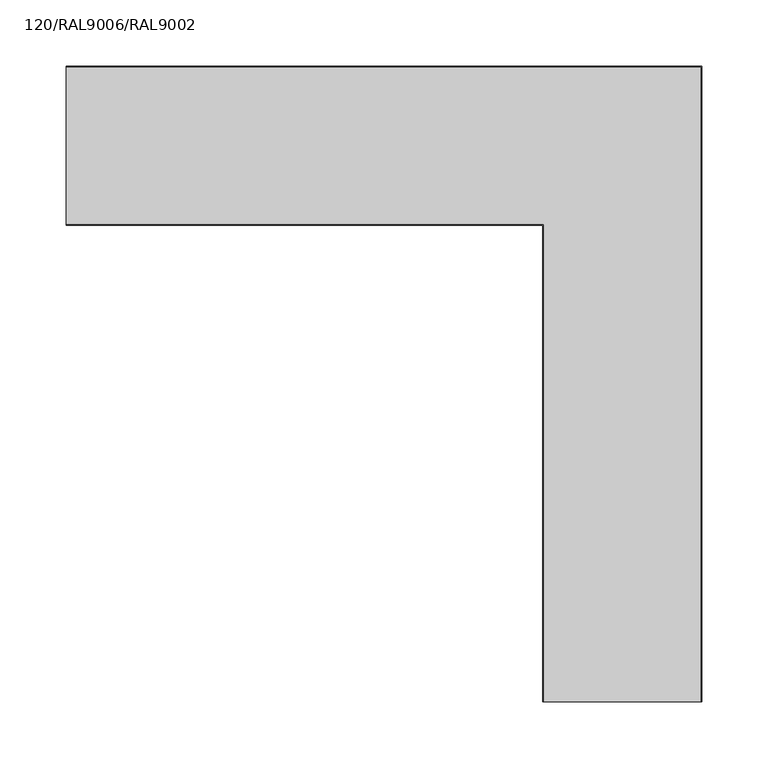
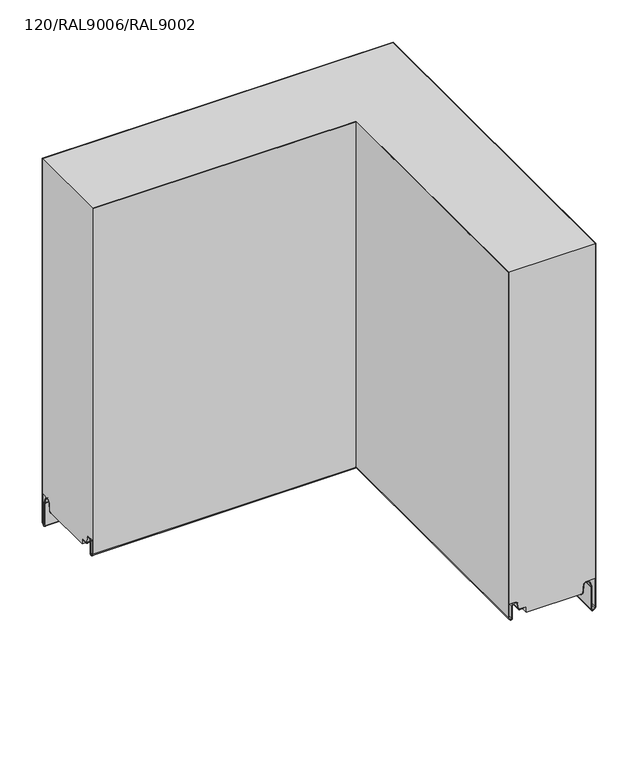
"""IFC4 building model written with IfcOpenShell, lengths in millimetres: plate geometry, TR_C_H_FHL_Corner_Tr_A_cut_GROOVE : 120/RAL9006/RAL9002."""

from ifc_helpers import new_model, si_unit, frame, origin, place, context, project, spatial, polyline, circle_curve, ellipse_curve, source, transform, mapped, element, save
from ifc_brep_helpers import plane_surface, cylinder_surface, revolved_surface, advanced_brep


def plate_120_ral9006_ral9002_16159907(model_context):
    return source(origin(), model_context, "Body", "AdvancedBrep", [
        advanced_brep(
        [(219.2, -480.0, 0.0), (220.2091721, -480.0, 0.1), (221.9027031, -480.0, 1.6518352), (222.7666165, -480.0, 11.5264116), (227.6479706, -480.0, 15.9993484), (239.2, -480.0, 15.9993484), (239.2, -480.0, 500.0), (120.8, -480.0, 500.0), (120.8, -480.0, 19.9), (129.45, -480.0, 19.9), (133.635433, -480.0, 16.3880048), (134.9718183, -480.0, 8.808987), (136.0551068, -480.0, 7.9), (145.14, -480.0, 7.9), (145.14, -480.0, 0.0), (-240.0, -20.8, 0.0), (-240.0, -94.86, 0.0), (-240.0, -94.86, 7.9), (-240.0, -103.9448932, 7.9), (-240.0, -105.0281817, 8.808987), (-240.0, -106.364567, 16.3880048), (-240.0, -110.55, 19.9), (-240.0, -119.2, 19.9), (-240.0, -119.2, 500.0), (-240.0, -0.8, 500.0), (-240.0, -0.8, 15.9993484), (-240.0, -12.3520294, 15.9993484), (-240.0, -17.2333835, 11.5264116), (-240.0, -18.0972969, 1.6518352), (-240.0, -19.7908279, 0.1), (145.14, -94.86, 0.0), (219.2, -20.8, 0.0), (120.8, -119.2, 19.9), (129.45, -110.55, 19.9), (133.635433, -106.364567, 16.3880048), (134.9718183, -105.0281817, 8.808987), (136.0551068, -103.9448932, 7.9), (145.14, -94.86, 7.9), (220.2091721, -19.7908279, 0.1), (221.9027031, -18.0972969, 1.6518352), (222.7666165, -17.2333835, 11.5264116), (227.6479706, -12.3520294, 15.9993484), (239.2, -0.8, 15.9993484), (239.2, -0.8, 500.0), (120.8, -119.2, 500.0)],
        [
            (0, 1),
            (1, 2, circle_curve(frame((220.2091721, -480.0, 1.8), z_axis=(0.0, -1.0, 0.0), x_axis=(-1.0, 0.0, 0.0)), 1.7)),
            (2, 3),
            (3, 4, circle_curve(frame((227.6479706, -480.0, 11.0993484), z_axis=(0.0, 1.0, 0.0), x_axis=(-1.0, 0.0, 0.0)), 4.9)),
            (4, 5),
            (5, 6),
            (6, 7),
            (7, 8),
            (8, 9),
            (9, 10, circle_curve(frame((129.45, -480.0, 15.65), z_axis=(0.0, 1.0, 0.0), x_axis=(-1.0, 0.0, 0.0)), 4.25)),
            (10, 11),
            (11, 12, circle_curve(frame((136.0551068, -480.0, 9.0), z_axis=(0.0, -1.0, 0.0), x_axis=(-1.0, 0.0, 0.0)), 1.1)),
            (12, 13),
            (13, 14),
            (14, 0),
            (15, 16),
            (16, 17),
            (17, 18),
            (18, 19, circle_curve(frame((-240.0, -103.9448932, 9.0), z_axis=(-1.0, 0.0, 0.0), x_axis=(0.0, -1.0, 0.0)), 1.1)),
            (19, 20),
            (20, 21, circle_curve(frame((-240.0, -110.55, 15.65), z_axis=(1.0, 0.0, 0.0), x_axis=(0.0, -1.0, 0.0)), 4.25)),
            (21, 22),
            (22, 23),
            (23, 24),
            (24, 25),
            (25, 26),
            (26, 27, circle_curve(frame((-240.0, -12.3520294, 11.0993484), z_axis=(1.0, 0.0, 0.0), x_axis=(0.0, -1.0, 0.0)), 4.9)),
            (27, 28),
            (28, 29, circle_curve(frame((-240.0, -19.7908279, 1.8), z_axis=(-1.0, 0.0, 0.0), x_axis=(0.0, -1.0, 0.0)), 1.7)),
            (29, 15),
            (14, 30),
            (30, 16),
            (15, 31),
            (31, 0),
            (8, 32),
            (32, 22),
            (21, 33),
            (33, 9),
            (33, 34, ellipse_curve(frame((129.45, -110.55, 15.65), z_axis=(-0.7071067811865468, 0.7071067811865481, 0.0), x_axis=(0.7071067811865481, 0.7071067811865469, 0.0)), 6.0104076, 4.25)),
            (34, 10),
            (34, 35),
            (35, 11),
            (35, 36, ellipse_curve(frame((136.0551068, -103.9448932, 9.0), z_axis=(0.7071067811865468, -0.7071067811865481, 0.0), x_axis=(-0.7071067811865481, -0.7071067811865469, 0.0)), 1.5556349, 1.1)),
            (36, 12),
            (36, 18),
            (17, 37),
            (37, 13),
            (37, 30),
            (31, 38),
            (38, 1),
            (38, 39, ellipse_curve(frame((220.2091721, -19.7908279, 1.8), z_axis=(0.7071067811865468, -0.7071067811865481, 0.0), x_axis=(-0.7071067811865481, -0.7071067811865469, 0.0)), 2.4041631, 1.7)),
            (39, 2),
            (39, 40),
            (40, 3),
            (40, 41, ellipse_curve(frame((227.6479706, -12.3520294, 11.0993484), z_axis=(-0.7071067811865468, 0.7071067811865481, 0.0), x_axis=(0.7071067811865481, 0.7071067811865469, 0.0)), 6.9296465, 4.9)),
            (41, 4),
            (41, 26),
            (25, 42),
            (42, 5),
            (20, 34),
            (19, 35),
            (29, 38),
            (28, 39),
            (27, 40),
            (42, 43),
            (43, 6),
            (7, 44),
            (44, 32),
            (24, 43),
            (44, 23),
        ],
        [
            plane_surface(frame((240.0, -480.0, 0.0), z_axis=(0.0, -1.0, 0.0), x_axis=(0.0, 0.0, 1.0))),
            plane_surface(frame((-240.0, 0.0, 0.0), z_axis=(-1.0, 0.0, 0.0), x_axis=(0.0, 0.0, 1.0))),
            plane_surface(frame((145.14, -480.0, 0.0), z_axis=(0.0, 0.0, -1.0), x_axis=(0.0, 1.0, 0.0))),
            plane_surface(frame((120.8, -480.0, 19.9), z_axis=(0.0, 0.0, -1.0), x_axis=(0.0, 1.0, 0.0))),
            revolved_surface(polyline([(125.19999999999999, -106.30000002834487, 15.65), (125.19999999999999, -480.0, 15.65)]), (129.45, -480.0, 15.65), (0.0, 1.0, 0.0)),
            plane_surface(frame((133.635433, -480.0, 16.3880048), z_axis=(-0.9848077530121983, 0.0, -0.17364817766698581), x_axis=(0.0, 1.0, 0.0))),
            cylinder_surface(frame((136.0551068, -480.0, 9.0), z_axis=(0.0, -1.0, 0.0), x_axis=(-1.0, 0.0, 0.0)), 1.1),
            plane_surface(frame((136.0551068, -480.0, 7.9), z_axis=(0.0, 0.0, -1.0), x_axis=(0.0, 1.0, 0.0))),
            plane_surface(frame((145.14, -480.0, 7.9), z_axis=(-1.0, 0.0, 0.0), x_axis=(0.0, 1.0, 0.0))),
            plane_surface(frame((219.2, -480.0, 0.0), z_axis=(0.09860819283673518, 0.0, -0.995126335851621), x_axis=(0.0, 1.0, 0.0))),
            cylinder_surface(frame((220.2091721, -480.0, 1.8), z_axis=(0.0, -1.0, 0.0), x_axis=(-1.0, 0.0, 0.0)), 1.7),
            plane_surface(frame((221.9027031, -480.0, 1.6518352), z_axis=(0.9961946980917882, 0.0, -0.08715574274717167), x_axis=(0.0, 1.0, 0.0))),
            revolved_surface(polyline([(222.7479706, -7.45202936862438, 11.0993484), (222.7479706, -480.0, 11.0993484)]), (227.6479706, -480.0, 11.0993484), (0.0, 1.0, 0.0)),
            plane_surface(frame((227.6479706, -480.0, 15.9993484), z_axis=(0.0, 0.0, -1.0), x_axis=(0.0, 1.0, 0.0))),
            revolved_surface(polyline([(-240.0, -114.8, 15.65), (133.69999997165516, -114.8, 15.65)]), (240.0, -110.55, 15.65), (-1.0, 0.0, 0.0)),
            plane_surface(frame((133.635433, -106.364567, 16.3880048), z_axis=(0.0, -0.9848077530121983, -0.17364817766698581), x_axis=(-1.0, 0.0, 0.0))),
            cylinder_surface(frame((240.0, -103.9448932, 9.0), z_axis=(1.0, 0.0, 0.0), x_axis=(0.0, -1.0, 0.0)), 1.1),
            plane_surface(frame((145.14, -94.86, 7.9), z_axis=(0.0, -1.0, 0.0), x_axis=(-1.0, 0.0, 0.0))),
            plane_surface(frame((219.2, -20.8, 0.0), z_axis=(0.0, 0.09860819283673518, -0.995126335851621), x_axis=(-1.0, 0.0, 0.0))),
            cylinder_surface(frame((240.0, -19.7908279, 1.8), z_axis=(1.0, 0.0, 0.0), x_axis=(0.0, -1.0, 0.0)), 1.7),
            plane_surface(frame((221.9027031, -18.0972969, 1.6518352), z_axis=(0.0, 0.9961946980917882, -0.08715574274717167), x_axis=(-1.0, 0.0, 0.0))),
            revolved_surface(polyline([(-240.0, -17.252029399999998, 11.0993484), (232.54797063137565, -17.252029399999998, 11.0993484)]), (240.0, -12.3520294, 11.0993484), (-1.0, 0.0, 0.0)),
            plane_surface(frame((239.2, -480.0, 15.9993484), z_axis=(1.0, 0.0, 0.0), x_axis=(0.0, 1.0, 0.0))),
            plane_surface(frame((120.8, -480.0, 989.8218254), z_axis=(-1.0, 0.0, 0.0), x_axis=(0.0, 1.0, 0.0))),
            plane_surface(frame((239.2, -0.8, 15.9993484), z_axis=(0.0, 1.0, 0.0), x_axis=(-1.0, 0.0, 0.0))),
            plane_surface(frame((120.8, -119.2, 989.8218254), z_axis=(0.0, -1.0, 0.0), x_axis=(-1.0, 0.0, 0.0))),
            plane_surface(frame((120.0, -480.0, 500.0), z_axis=(0.0, 0.0, 1.0), x_axis=(0.0, 1.0, 0.0))),
        ],
        [
            (0, [[1, 2, 3, 4, 5, 6, 7, 8, 9, 10, 11, 12, 13, 14, 15]]),
            (1, [[16, 17, 18, 19, 20, 21, 22, 23, 24, 25, 26, 27, 28, 29, 30]]),
            (2, [[-15, 31, 32, -16, 33, 34]]),
            (3, [[-9, 35, 36, -22, 37, 38]]),
            (4, [[-10, -38, 39, 40]]),
            (5, [[-11, -40, 41, 42]]),
            (6, [[-12, -42, 43, 44]]),
            (7, [[-13, -44, 45, -18, 46, 47]]),
            (8, [[-14, -47, 48, -31]]),
            (9, [[-1, -34, 49, 50]]),
            (10, [[-2, -50, 51, 52]]),
            (11, [[-3, -52, 53, 54]]),
            (12, [[-4, -54, 55, 56]]),
            (13, [[-5, -56, 57, -26, 58, 59]]),
            (14, [[-21, 60, -39, -37]]),
            (15, [[-20, 61, -41, -60]]),
            (16, [[-19, -45, -43, -61]]),
            (17, [[-17, -32, -48, -46]]),
            (18, [[-30, 62, -49, -33]]),
            (19, [[-29, 63, -51, -62]]),
            (20, [[-28, 64, -53, -63]]),
            (21, [[-27, -57, -55, -64]]),
            (22, [[-59, 65, 66, -6]]),
            (23, [[-35, -8, 67, 68]]),
            (24, [[-58, -25, 69, -65]]),
            (25, [[-36, -68, 70, -23]]),
            (26, [[-7, -66, -69, -24, -70, -67]]),
        ],
    ),
        advanced_brep(
        [(219.2, -480.0, -0.7), (220.2091721, -480.0, -0.7), (222.6996588, -480.0, 1.5821106), (223.5635723, -480.0, 11.456687), (231.5245967, -480.0, 12.4341779), (233.8637964, -480.0, 5.6406486), (234.0, -480.0, 4.8267282), (234.0, -480.0, -27.5), (237.1957969, -480.0, -28.889572), (239.1413956, -480.0, -27.0752719), (240.0, -480.0, -25.1006169), (240.0, -480.0, 500.0), (239.2, -480.0, 500.0), (239.2, -480.0, -25.1006169), (238.5957969, -480.0, -26.4901889), (236.6501982, -480.0, -28.3044891), (234.8, -480.0, -27.5), (234.8, -480.0, 4.8267282), (234.6202113, -480.0, 5.9011031), (232.2810116, -480.0, 12.6946324), (222.7666165, -480.0, 11.5264116), (221.9027031, -480.0, 1.6518352), (220.2091721, -480.0, 0.1), (219.2, -480.0, 0.1), (-240.0, -20.8, -0.7), (-240.0, -20.8, 0.1), (-240.0, -19.7908279, 0.1), (-240.0, -18.0972969, 1.6518352), (-240.0, -17.2333835, 11.5264116), (-240.0, -7.7189884, 12.6946324), (-240.0, -5.3797887, 5.9011031), (-240.0, -5.2, 4.8267282), (-240.0, -5.2, -27.5), (-240.0, -3.3498018, -28.3044891), (-240.0, -1.4042031, -26.4901889), (-240.0, -0.8, -25.1006169), (-240.0, -0.8, 500.0), (-240.0, 0.0, 500.0), (-240.0, 0.0, -25.1006169), (-240.0, -0.8586044, -27.0752719), (-240.0, -2.8042031, -28.889572), (-240.0, -6.0, -27.5), (-240.0, -6.0, 4.8267282), (-240.0, -6.1362036, 5.6406486), (-240.0, -8.4754033, 12.4341779), (-240.0, -16.4364277, 11.456687), (-240.0, -17.3003412, 1.5821106), (-240.0, -19.7908279, -0.7), (239.2, -0.8, -25.1006169), (238.5957969, -1.4042031, -26.4901889), (236.6501982, -3.3498018, -28.3044891), (234.8, -5.2, -27.5), (234.8, -5.2, 4.8267282), (234.6202113, -5.3797887, 5.9011031), (232.2810116, -7.7189884, 12.6946324), (222.7666165, -17.2333835, 11.5264116), (221.9027031, -18.0972969, 1.6518352), (220.2091721, -19.7908279, 0.1), (219.2, -20.8, 0.1), (219.2, -20.8, -0.7), (220.2091721, -19.7908279, -0.7), (222.6996588, -17.3003412, 1.5821106), (223.5635723, -16.4364277, 11.456687), (231.5245967, -8.4754033, 12.4341779), (233.8637964, -6.1362036, 5.6406486), (234.0, -6.0, 4.8267282), (234.0, -6.0, -27.5), (237.1957969, -2.8042031, -28.889572), (239.1413956, -0.8586044, -27.0752719), (240.0, 0.0, -25.1006169), (240.0, 0.0, 500.0), (239.2, -0.8, 500.0)],
        [
            (0, 1),
            (1, 2, circle_curve(frame((220.2091721, -480.0, 1.8), z_axis=(0.0, -1.0, 0.0), x_axis=(-1.0, 0.0, 0.0)), 2.5)),
            (2, 3),
            (3, 4, circle_curve(frame((227.6479706, -480.0, 11.0993484), z_axis=(0.0, 1.0, 0.0), x_axis=(-1.0, 0.0, 0.0)), 4.1)),
            (4, 5),
            (5, 6, circle_curve(frame((231.5, -480.0, 4.8267282), z_axis=(0.0, 1.0, 0.0), x_axis=(-1.0, 0.0, 0.0)), 2.5)),
            (6, 7),
            (7, 8, circle_curve(frame((235.9, -480.0, -27.5), z_axis=(0.0, -1.0, 0.0), x_axis=(-1.0, 0.0, 0.0)), 1.9)),
            (8, 9),
            (9, 10, circle_curve(frame((237.3, -480.0, -25.1006169), z_axis=(0.0, -1.0, 0.0), x_axis=(-1.0, 0.0, 0.0)), 2.7)),
            (10, 11),
            (11, 12),
            (12, 13),
            (13, 14, circle_curve(frame((237.3, -480.0, -25.1006169), z_axis=(0.0, 1.0, 0.0), x_axis=(-1.0, 0.0, 0.0)), 1.9)),
            (14, 15),
            (15, 16, circle_curve(frame((235.9, -480.0, -27.5), z_axis=(0.0, 1.0, 0.0), x_axis=(-1.0, 0.0, 0.0)), 1.1)),
            (16, 17),
            (17, 18, circle_curve(frame((231.5, -480.0, 4.8267282), z_axis=(0.0, -1.0, 0.0), x_axis=(-1.0, 0.0, 0.0)), 3.3)),
            (18, 19),
            (19, 20, circle_curve(frame((227.6479706, -480.0, 11.0993484), z_axis=(0.0, -1.0, 0.0), x_axis=(-1.0, 0.0, 0.0)), 4.9)),
            (20, 21),
            (21, 22, circle_curve(frame((220.2091721, -480.0, 1.8), z_axis=(0.0, 1.0, 0.0), x_axis=(-1.0, 0.0, 0.0)), 1.7)),
            (22, 23),
            (23, 0),
            (24, 25),
            (25, 26),
            (26, 27, circle_curve(frame((-240.0, -19.7908279, 1.8), z_axis=(1.0, 0.0, 0.0), x_axis=(0.0, -1.0, 0.0)), 1.7)),
            (27, 28),
            (28, 29, circle_curve(frame((-240.0, -12.3520294, 11.0993484), z_axis=(-1.0, 0.0, 0.0), x_axis=(0.0, -1.0, 0.0)), 4.9)),
            (29, 30),
            (30, 31, circle_curve(frame((-240.0, -8.5, 4.8267282), z_axis=(-1.0, 0.0, 0.0), x_axis=(0.0, -1.0, 0.0)), 3.3)),
            (31, 32),
            (32, 33, circle_curve(frame((-240.0, -4.1, -27.5), z_axis=(1.0, 0.0, 0.0), x_axis=(0.0, -1.0, 0.0)), 1.1)),
            (33, 34),
            (34, 35, circle_curve(frame((-240.0, -2.7, -25.1006169), z_axis=(1.0, 0.0, 0.0), x_axis=(0.0, -1.0, 0.0)), 1.9)),
            (35, 36),
            (36, 37),
            (37, 38),
            (38, 39, circle_curve(frame((-240.0, -2.7, -25.1006169), z_axis=(-1.0, 0.0, 0.0), x_axis=(0.0, -1.0, 0.0)), 2.7)),
            (39, 40),
            (40, 41, circle_curve(frame((-240.0, -4.1, -27.5), z_axis=(-1.0, 0.0, 0.0), x_axis=(0.0, -1.0, 0.0)), 1.9)),
            (41, 42),
            (42, 43, circle_curve(frame((-240.0, -8.5, 4.8267282), z_axis=(1.0, 0.0, 0.0), x_axis=(0.0, -1.0, 0.0)), 2.5)),
            (43, 44),
            (44, 45, circle_curve(frame((-240.0, -12.3520294, 11.0993484), z_axis=(1.0, 0.0, 0.0), x_axis=(0.0, -1.0, 0.0)), 4.1)),
            (45, 46),
            (46, 47, circle_curve(frame((-240.0, -19.7908279, 1.8), z_axis=(-1.0, 0.0, 0.0), x_axis=(0.0, -1.0, 0.0)), 2.5)),
            (47, 24),
            (13, 48),
            (48, 49, ellipse_curve(frame((237.3, -2.7, -25.1006169), z_axis=(-0.7071067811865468, 0.7071067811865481, 0.0), x_axis=(0.7071067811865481, 0.7071067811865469, 0.0)), 2.6870058, 1.9)),
            (49, 14),
            (49, 50),
            (50, 15),
            (50, 51, ellipse_curve(frame((235.9, -4.1, -27.5), z_axis=(-0.7071067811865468, 0.7071067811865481, 0.0), x_axis=(0.7071067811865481, 0.7071067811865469, 0.0)), 1.5556349, 1.1)),
            (51, 16),
            (51, 52),
            (52, 17),
            (52, 53, ellipse_curve(frame((231.5, -8.5, 4.8267282), z_axis=(0.7071067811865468, -0.7071067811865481, 0.0), x_axis=(-0.7071067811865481, -0.7071067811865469, 0.0)), 4.6669048, 3.3)),
            (53, 18),
            (53, 54),
            (54, 19),
            (54, 55, ellipse_curve(frame((227.6479706, -12.3520294, 11.0993484), z_axis=(0.7071067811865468, -0.7071067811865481, 0.0), x_axis=(-0.7071067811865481, -0.7071067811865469, 0.0)), 6.9296465, 4.9)),
            (55, 20),
            (55, 56),
            (56, 21),
            (56, 57, ellipse_curve(frame((220.2091721, -19.7908279, 1.8), z_axis=(-0.7071067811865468, 0.7071067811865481, 0.0), x_axis=(0.7071067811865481, 0.7071067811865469, 0.0)), 2.4041631, 1.7)),
            (57, 22),
            (57, 26),
            (25, 58),
            (58, 23),
            (58, 59),
            (59, 0),
            (59, 24),
            (47, 60),
            (60, 1),
            (60, 61, ellipse_curve(frame((220.2091721, -19.7908279, 1.8), z_axis=(0.7071067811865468, -0.7071067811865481, 0.0), x_axis=(-0.7071067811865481, -0.7071067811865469, 0.0)), 3.5355339, 2.5)),
            (61, 2),
            (61, 62),
            (62, 3),
            (62, 63, ellipse_curve(frame((227.6479706, -12.3520294, 11.0993484), z_axis=(-0.7071067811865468, 0.7071067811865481, 0.0), x_axis=(0.7071067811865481, 0.7071067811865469, 0.0)), 5.7982756, 4.1)),
            (63, 4),
            (63, 64),
            (64, 5),
            (64, 65, ellipse_curve(frame((231.5, -8.5, 4.8267282), z_axis=(-0.7071067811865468, 0.7071067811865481, 0.0), x_axis=(0.7071067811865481, 0.7071067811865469, 0.0)), 3.5355339, 2.5)),
            (65, 6),
            (65, 66),
            (66, 7),
            (66, 67, ellipse_curve(frame((235.9, -4.1, -27.5), z_axis=(0.7071067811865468, -0.7071067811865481, 0.0), x_axis=(-0.7071067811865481, -0.7071067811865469, 0.0)), 2.6870058, 1.9)),
            (67, 8),
            (67, 68),
            (68, 9),
            (68, 69, ellipse_curve(frame((237.3, -2.7, -25.1006169), z_axis=(0.7071067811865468, -0.7071067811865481, 0.0), x_axis=(-0.7071067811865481, -0.7071067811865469, 0.0)), 3.8183766, 2.7)),
            (69, 10),
            (34, 49),
            (48, 35),
            (33, 50),
            (32, 51),
            (31, 52),
            (30, 53),
            (29, 54),
            (28, 55),
            (27, 56),
            (46, 61),
            (45, 62),
            (44, 63),
            (43, 64),
            (42, 65),
            (41, 66),
            (40, 67),
            (39, 68),
            (38, 69),
            (69, 70),
            (70, 11),
            (12, 71),
            (71, 48),
            (37, 70),
            (71, 36),
        ],
        [
            plane_surface(frame((240.0, -480.0, 0.0), z_axis=(0.0, -1.0, 0.0), x_axis=(0.0, 0.0, 1.0))),
            plane_surface(frame((-240.0, 0.0, 0.0), z_axis=(-1.0, 0.0, 0.0), x_axis=(0.0, 0.0, 1.0))),
            revolved_surface(polyline([(235.4, -0.7999999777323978, -25.1006169), (235.4, -480.0, -25.1006169)]), (237.3, -480.0, -25.1006169), (0.0, 1.0, 0.0)),
            plane_surface(frame((238.5957969, -480.0, -26.4901889), z_axis=(-0.6819983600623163, 0.0, 0.7313537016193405), x_axis=(0.0, 1.0, 0.0))),
            revolved_surface(polyline([(234.8, -3.0000000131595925, -27.5), (234.8, -480.0, -27.5)]), (235.9, -480.0, -27.5), (0.0, 1.0, 0.0)),
            plane_surface(frame((234.8, -480.0, -27.5), z_axis=(1.0, 0.0, 0.0), x_axis=(0.0, 1.0, 0.0))),
            cylinder_surface(frame((231.5, -480.0, 4.8267282), z_axis=(0.0, -1.0, 0.0), x_axis=(-1.0, 0.0, 0.0)), 3.3),
            plane_surface(frame((234.6202113, -480.0, 5.9011031), z_axis=(0.9455185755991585, 0.0, 0.3255681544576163), x_axis=(0.0, 1.0, 0.0))),
            cylinder_surface(frame((227.6479706, -480.0, 11.0993484), z_axis=(0.0, -1.0, 0.0), x_axis=(-1.0, 0.0, 0.0)), 4.9),
            plane_surface(frame((222.7666165, -480.0, 11.5264116), z_axis=(-0.9961946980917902, 0.0, 0.0871557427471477), x_axis=(0.0, 1.0, 0.0))),
            revolved_surface(polyline([(218.5091721, -18.09082786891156, 1.8), (218.5091721, -480.0, 1.8)]), (220.2091721, -480.0, 1.8), (0.0, 1.0, 0.0)),
            plane_surface(frame((220.2091721, -480.0, 0.1), z_axis=(0.0, 0.0, 1.0), x_axis=(0.0, 1.0, 0.0))),
            plane_surface(frame((219.2, -480.0, 0.1), z_axis=(-1.0, 0.0, 0.0), x_axis=(0.0, 1.0, 0.0))),
            plane_surface(frame((219.2, -480.0, -0.7), z_axis=(0.0, 0.0, -1.0), x_axis=(0.0, 1.0, 0.0))),
            cylinder_surface(frame((220.2091721, -480.0, 1.8), z_axis=(0.0, -1.0, 0.0), x_axis=(-1.0, 0.0, 0.0)), 2.5),
            plane_surface(frame((222.6996588, -480.0, 1.5821106), z_axis=(0.996194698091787, 0.0, -0.08715574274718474), x_axis=(0.0, 1.0, 0.0))),
            revolved_surface(polyline([(223.5479706, -8.252029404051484, 11.0993484), (223.5479706, -480.0, 11.0993484)]), (227.6479706, -480.0, 11.0993484), (0.0, 1.0, 0.0)),
            plane_surface(frame((231.5245967, -480.0, 12.4341779), z_axis=(-0.9455185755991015, 0.0, -0.32556815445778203), x_axis=(0.0, 1.0, 0.0))),
            revolved_surface(polyline([(229.0, -6.0, 4.8267282), (229.0, -480.0, 4.8267282)]), (231.5, -480.0, 4.8267282), (0.0, 1.0, 0.0)),
            plane_surface(frame((234.0, -480.0, 4.8267282), z_axis=(-1.0, 0.0, 0.0), x_axis=(0.0, 1.0, 0.0))),
            cylinder_surface(frame((235.9, -480.0, -27.5), z_axis=(0.0, -1.0, 0.0), x_axis=(-1.0, 0.0, 0.0)), 1.9),
            plane_surface(frame((237.1957969, -480.0, -28.889572), z_axis=(0.6819983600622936, 0.0, -0.7313537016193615), x_axis=(0.0, 1.0, 0.0))),
            cylinder_surface(frame((237.3, -480.0, -25.1006169), z_axis=(0.0, -1.0, 0.0), x_axis=(-1.0, 0.0, 0.0)), 2.7),
            revolved_surface(polyline([(-240.0, -4.6, -25.1006169), (239.2000000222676, -4.6, -25.1006169)]), (240.0, -2.7, -25.1006169), (-1.0, 0.0, 0.0)),
            plane_surface(frame((238.5957969, -1.4042031, -26.4901889), z_axis=(0.0, -0.6819983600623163, 0.7313537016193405), x_axis=(-1.0, 0.0, 0.0))),
            revolved_surface(polyline([(-240.0, -5.199999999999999, -27.5), (236.99999998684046, -5.199999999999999, -27.5)]), (240.0, -4.1, -27.5), (-1.0, 0.0, 0.0)),
            plane_surface(frame((234.8, -5.2, -27.5), z_axis=(0.0, 1.0, 0.0), x_axis=(-1.0, 0.0, 0.0))),
            cylinder_surface(frame((240.0, -8.5, 4.8267282), z_axis=(1.0, 0.0, 0.0), x_axis=(0.0, -1.0, 0.0)), 3.3),
            plane_surface(frame((234.6202113, -5.3797887, 5.9011031), z_axis=(0.0, 0.9455185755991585, 0.3255681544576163), x_axis=(-1.0, 0.0, 0.0))),
            cylinder_surface(frame((240.0, -12.3520294, 11.0993484), z_axis=(1.0, 0.0, 0.0), x_axis=(0.0, -1.0, 0.0)), 4.9),
            plane_surface(frame((222.7666165, -17.2333835, 11.5264116), z_axis=(0.0, -0.9961946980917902, 0.0871557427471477), x_axis=(-1.0, 0.0, 0.0))),
            revolved_surface(polyline([(-240.0, -21.4908279, 1.8), (221.90917213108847, -21.4908279, 1.8)]), (240.0, -19.7908279, 1.8), (-1.0, 0.0, 0.0)),
            plane_surface(frame((219.2, -20.8, 0.1), z_axis=(0.0, -1.0, 0.0), x_axis=(-1.0, 0.0, 0.0))),
            cylinder_surface(frame((240.0, -19.7908279, 1.8), z_axis=(1.0, 0.0, 0.0), x_axis=(0.0, -1.0, 0.0)), 2.5),
            plane_surface(frame((222.6996588, -17.3003412, 1.5821106), z_axis=(0.0, 0.996194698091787, -0.08715574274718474), x_axis=(-1.0, 0.0, 0.0))),
            revolved_surface(polyline([(-240.0, -16.4520294, 11.0993484), (231.74797059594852, -16.4520294, 11.0993484)]), (240.0, -12.3520294, 11.0993484), (-1.0, 0.0, 0.0)),
            plane_surface(frame((231.5245967, -8.4754033, 12.4341779), z_axis=(0.0, -0.9455185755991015, -0.32556815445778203), x_axis=(-1.0, 0.0, 0.0))),
            revolved_surface(polyline([(-240.0, -11.0, 4.8267282), (234.0, -11.0, 4.8267282)]), (240.0, -8.5, 4.8267282), (-1.0, 0.0, 0.0)),
            plane_surface(frame((234.0, -6.0, 4.8267282), z_axis=(0.0, -1.0, 0.0), x_axis=(-1.0, 0.0, 0.0))),
            cylinder_surface(frame((240.0, -4.1, -27.5), z_axis=(1.0, 0.0, 0.0), x_axis=(0.0, -1.0, 0.0)), 1.9),
            plane_surface(frame((237.1957969, -2.8042031, -28.889572), z_axis=(0.0, 0.6819983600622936, -0.7313537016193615), x_axis=(-1.0, 0.0, 0.0))),
            cylinder_surface(frame((240.0, -2.7, -25.1006169), z_axis=(1.0, 0.0, 0.0), x_axis=(0.0, -1.0, 0.0)), 2.7),
            plane_surface(frame((240.0, -480.0, -25.1006169), z_axis=(1.0, 0.0, 0.0), x_axis=(0.0, 1.0, 0.0))),
            plane_surface(frame((239.2, -480.0, 963.4370797), z_axis=(-1.0, 0.0, 0.0), x_axis=(0.0, 1.0, 0.0))),
            plane_surface(frame((240.0, 0.0, -25.1006169), z_axis=(0.0, 1.0, 0.0), x_axis=(-1.0, 0.0, 0.0))),
            plane_surface(frame((239.2, -0.8, 963.4370797), z_axis=(0.0, -1.0, 0.0), x_axis=(-1.0, 0.0, 0.0))),
            plane_surface(frame((120.0, -480.0, 500.0), z_axis=(0.0, 0.0, 1.0), x_axis=(0.0, 1.0, 0.0))),
        ],
        [
            (0, [[1, 2, 3, 4, 5, 6, 7, 8, 9, 10, 11, 12, 13, 14, 15, 16, 17, 18, 19, 20, 21, 22, 23, 24]]),
            (1, [[25, 26, 27, 28, 29, 30, 31, 32, 33, 34, 35, 36, 37, 38, 39, 40, 41, 42, 43, 44, 45, 46, 47, 48]]),
            (2, [[-14, 49, 50, 51]]),
            (3, [[-15, -51, 52, 53]]),
            (4, [[-16, -53, 54, 55]]),
            (5, [[-17, -55, 56, 57]]),
            (6, [[-18, -57, 58, 59]]),
            (7, [[-19, -59, 60, 61]]),
            (8, [[-20, -61, 62, 63]]),
            (9, [[-21, -63, 64, 65]]),
            (10, [[-22, -65, 66, 67]]),
            (11, [[-23, -67, 68, -26, 69, 70]]),
            (12, [[-24, -70, 71, 72]]),
            (13, [[-1, -72, 73, -48, 74, 75]]),
            (14, [[-2, -75, 76, 77]]),
            (15, [[-3, -77, 78, 79]]),
            (16, [[-4, -79, 80, 81]]),
            (17, [[-5, -81, 82, 83]]),
            (18, [[-6, -83, 84, 85]]),
            (19, [[-7, -85, 86, 87]]),
            (20, [[-8, -87, 88, 89]]),
            (21, [[-9, -89, 90, 91]]),
            (22, [[-10, -91, 92, 93]]),
            (23, [[-35, 94, -50, 95]]),
            (24, [[-34, 96, -52, -94]]),
            (25, [[-33, 97, -54, -96]]),
            (26, [[-32, 98, -56, -97]]),
            (27, [[-31, 99, -58, -98]]),
            (28, [[-30, 100, -60, -99]]),
            (29, [[-29, 101, -62, -100]]),
            (30, [[-28, 102, -64, -101]]),
            (31, [[-27, -68, -66, -102]]),
            (32, [[-25, -73, -71, -69]]),
            (33, [[-47, 103, -76, -74]]),
            (34, [[-46, 104, -78, -103]]),
            (35, [[-45, 105, -80, -104]]),
            (36, [[-44, 106, -82, -105]]),
            (37, [[-43, 107, -84, -106]]),
            (38, [[-42, 108, -86, -107]]),
            (39, [[-41, 109, -88, -108]]),
            (40, [[-40, 110, -90, -109]]),
            (41, [[-39, 111, -92, -110]]),
            (42, [[-93, 112, 113, -11]]),
            (43, [[-49, -13, 114, 115]]),
            (44, [[-111, -38, 116, -112]]),
            (45, [[-95, -115, 117, -36]]),
            (46, [[-12, -113, -116, -37, -117, -114]]),
        ],
    ),
        advanced_brep(
        [(121.3711418, -480.0, -0.8974874), (120.8, -480.0, 0.4813708), (120.8, -480.0, 500.0), (120.0, -480.0, 500.0), (120.0, -480.0, 0.4813708), (120.8054564, -480.0, -1.4631728), (122.6711418, -480.0, -3.3288582), (126.0, -480.0, -1.95), (126.0, -480.0, 15.65), (132.8475867, -480.0, 16.2490862), (134.1839721, -480.0, 8.6700685), (136.0551068, -480.0, 7.1), (141.0, -480.0, 7.1), (141.0, -480.0, 7.9), (136.0551068, -480.0, 7.9), (134.9718183, -480.0, 8.808987), (133.635433, -480.0, 16.3880048), (125.2, -480.0, 15.65), (125.2, -480.0, -1.95), (123.2368272, -480.0, -2.7631728), (-240.0, -118.6288582, -0.8974874), (-240.0, -116.7631728, -2.7631728), (-240.0, -114.8, -1.95), (-240.0, -114.8, 15.65), (-240.0, -106.364567, 16.3880048), (-240.0, -105.0281817, 8.808987), (-240.0, -103.9448932, 7.9), (-240.0, -99.0, 7.9), (-240.0, -99.0, 7.1), (-240.0, -103.9448932, 7.1), (-240.0, -105.8160279, 8.6700685), (-240.0, -107.1524133, 16.2490862), (-240.0, -114.0, 15.65), (-240.0, -114.0, -1.95), (-240.0, -117.3288582, -3.3288582), (-240.0, -119.1945436, -1.4631728), (-240.0, -120.0, 0.4813708), (-240.0, -120.0, 500.0), (-240.0, -119.2, 500.0), (-240.0, -119.2, 0.4813708), (120.0, -120.0, 0.4813708), (120.8054564, -119.1945436, -1.4631728), (122.6711418, -117.3288582, -3.3288582), (126.0, -114.0, -1.95), (126.0, -114.0, 15.65), (132.8475867, -107.1524133, 16.2490862), (134.1839721, -105.8160279, 8.6700685), (136.0551068, -103.9448932, 7.1), (141.0, -99.0, 7.1), (141.0, -99.0, 7.9), (136.0551068, -103.9448932, 7.9), (134.9718183, -105.0281817, 8.808987), (133.635433, -106.364567, 16.3880048), (125.2, -114.8, 15.65), (125.2, -114.8, -1.95), (123.2368272, -116.7631728, -2.7631728), (121.3711418, -118.6288582, -0.8974874), (120.8, -119.2, 0.4813708), (120.8, -119.2, 500.0), (120.0, -120.0, 500.0)],
        [
            (0, 1, circle_curve(frame((122.75, -480.0, 0.4813708), z_axis=(0.0, 1.0, 0.0), x_axis=(-1.0, 0.0, 0.0)), 1.95)),
            (1, 2),
            (2, 3),
            (3, 4),
            (4, 5, circle_curve(frame((122.75, -480.0, 0.4813708), z_axis=(0.0, -1.0, 0.0), x_axis=(-1.0, 0.0, 0.0)), 2.75)),
            (5, 6),
            (6, 7, circle_curve(frame((124.05, -480.0, -1.95), z_axis=(0.0, -1.0, 0.0), x_axis=(-1.0, 0.0, 0.0)), 1.95)),
            (7, 8),
            (8, 9, circle_curve(frame((129.45, -480.0, 15.65), z_axis=(0.0, 1.0, 0.0), x_axis=(-1.0, 0.0, 0.0)), 3.45)),
            (9, 10),
            (10, 11, circle_curve(frame((136.0551068, -480.0, 9.0), z_axis=(0.0, -1.0, 0.0), x_axis=(-1.0, 0.0, 0.0)), 1.9)),
            (11, 12),
            (12, 13),
            (13, 14),
            (14, 15, circle_curve(frame((136.0551068, -480.0, 9.0), z_axis=(0.0, 1.0, 0.0), x_axis=(-1.0, 0.0, 0.0)), 1.1)),
            (15, 16),
            (16, 17, circle_curve(frame((129.45, -480.0, 15.65), z_axis=(0.0, -1.0, 0.0), x_axis=(-1.0, 0.0, 0.0)), 4.25)),
            (17, 18),
            (18, 19, circle_curve(frame((124.05, -480.0, -1.95), z_axis=(0.0, 1.0, 0.0), x_axis=(-1.0, 0.0, 0.0)), 1.15)),
            (19, 0),
            (20, 21),
            (21, 22, circle_curve(frame((-240.0, -115.95, -1.95), z_axis=(1.0, 0.0, 0.0), x_axis=(0.0, -1.0, 0.0)), 1.15)),
            (22, 23),
            (23, 24, circle_curve(frame((-240.0, -110.55, 15.65), z_axis=(-1.0, 0.0, 0.0), x_axis=(0.0, -1.0, 0.0)), 4.25)),
            (24, 25),
            (25, 26, circle_curve(frame((-240.0, -103.9448932, 9.0), z_axis=(1.0, 0.0, 0.0), x_axis=(0.0, -1.0, 0.0)), 1.1)),
            (26, 27),
            (27, 28),
            (28, 29),
            (29, 30, circle_curve(frame((-240.0, -103.9448932, 9.0), z_axis=(-1.0, 0.0, 0.0), x_axis=(0.0, -1.0, 0.0)), 1.9)),
            (30, 31),
            (31, 32, circle_curve(frame((-240.0, -110.55, 15.65), z_axis=(1.0, 0.0, 0.0), x_axis=(0.0, -1.0, 0.0)), 3.45)),
            (32, 33),
            (33, 34, circle_curve(frame((-240.0, -115.95, -1.95), z_axis=(-1.0, 0.0, 0.0), x_axis=(0.0, -1.0, 0.0)), 1.95)),
            (34, 35),
            (35, 36, circle_curve(frame((-240.0, -117.25, 0.4813708), z_axis=(-1.0, 0.0, 0.0), x_axis=(0.0, -1.0, 0.0)), 2.75)),
            (36, 37),
            (37, 38),
            (38, 39),
            (39, 20, circle_curve(frame((-240.0, -117.25, 0.4813708), z_axis=(1.0, 0.0, 0.0), x_axis=(0.0, -1.0, 0.0)), 1.95)),
            (4, 40),
            (40, 41, ellipse_curve(frame((122.75, -117.25, 0.4813708), z_axis=(0.7071067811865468, -0.7071067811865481, 0.0), x_axis=(-0.7071067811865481, -0.7071067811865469, 0.0)), 3.8890873, 2.75)),
            (41, 5),
            (41, 42),
            (42, 6),
            (42, 43, ellipse_curve(frame((124.05, -115.95, -1.95), z_axis=(0.7071067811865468, -0.7071067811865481, 0.0), x_axis=(-0.7071067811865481, -0.7071067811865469, 0.0)), 2.7577164, 1.95)),
            (43, 7),
            (43, 44),
            (44, 8),
            (44, 45, ellipse_curve(frame((129.45, -110.55, 15.65), z_axis=(-0.7071067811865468, 0.7071067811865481, 0.0), x_axis=(0.7071067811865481, 0.7071067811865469, 0.0)), 4.8790368, 3.45)),
            (45, 9),
            (45, 46),
            (46, 10),
            (46, 47, ellipse_curve(frame((136.0551068, -103.9448932, 9.0), z_axis=(0.7071067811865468, -0.7071067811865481, 0.0), x_axis=(-0.7071067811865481, -0.7071067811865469, 0.0)), 2.6870058, 1.9)),
            (47, 11),
            (47, 29),
            (28, 48),
            (48, 12),
            (48, 49),
            (49, 13),
            (49, 27),
            (26, 50),
            (50, 14),
            (50, 51, ellipse_curve(frame((136.0551068, -103.9448932, 9.0), z_axis=(-0.7071067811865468, 0.7071067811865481, 0.0), x_axis=(0.7071067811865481, 0.7071067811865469, 0.0)), 1.5556349, 1.1)),
            (51, 15),
            (51, 52),
            (52, 16),
            (52, 53, ellipse_curve(frame((129.45, -110.55, 15.65), z_axis=(0.7071067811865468, -0.7071067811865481, 0.0), x_axis=(-0.7071067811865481, -0.7071067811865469, 0.0)), 6.0104076, 4.25)),
            (53, 17),
            (53, 54),
            (54, 18),
            (54, 55, ellipse_curve(frame((124.05, -115.95, -1.95), z_axis=(-0.7071067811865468, 0.7071067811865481, 0.0), x_axis=(0.7071067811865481, 0.7071067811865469, 0.0)), 1.6263456, 1.15)),
            (55, 19),
            (55, 56),
            (56, 0),
            (56, 57, ellipse_curve(frame((122.75, -117.25, 0.4813708), z_axis=(-0.7071067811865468, 0.7071067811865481, 0.0), x_axis=(0.7071067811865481, 0.7071067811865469, 0.0)), 2.7577164, 1.95)),
            (57, 1),
            (35, 41),
            (40, 36),
            (34, 42),
            (33, 43),
            (32, 44),
            (31, 45),
            (30, 46),
            (25, 51),
            (24, 52),
            (23, 53),
            (22, 54),
            (21, 55),
            (20, 56),
            (39, 57),
            (57, 58),
            (58, 2),
            (3, 59),
            (59, 40),
            (38, 58),
            (59, 37),
        ],
        [
            plane_surface(frame((240.0, -480.0, 0.0), z_axis=(0.0, -1.0, 0.0), x_axis=(0.0, 0.0, 1.0))),
            plane_surface(frame((-240.0, 0.0, 0.0), z_axis=(-1.0, 0.0, 0.0), x_axis=(0.0, 0.0, 1.0))),
            cylinder_surface(frame((122.75, -480.0, 0.4813708), z_axis=(0.0, -1.0, 0.0), x_axis=(-1.0, 0.0, 0.0)), 2.75),
            plane_surface(frame((120.8054564, -480.0, -1.4631728), z_axis=(-0.7071067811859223, 0.0, -0.7071067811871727), x_axis=(0.0, 1.0, 0.0))),
            cylinder_surface(frame((124.05, -480.0, -1.95), z_axis=(0.0, -1.0, 0.0), x_axis=(-1.0, 0.0, 0.0)), 1.95),
            plane_surface(frame((126.0, -480.0, -1.95), z_axis=(1.0, 0.0, 0.0), x_axis=(0.0, 1.0, 0.0))),
            revolved_surface(polyline([(125.99999999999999, -107.09999999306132, 15.65), (125.99999999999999, -480.0, 15.65)]), (129.45, -480.0, 15.65), (0.0, 1.0, 0.0)),
            plane_surface(frame((132.8475867, -480.0, 16.2490862), z_axis=(-0.9848077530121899, 0.0, -0.17364817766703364), x_axis=(0.0, 1.0, 0.0))),
            cylinder_surface(frame((136.0551068, -480.0, 9.0), z_axis=(0.0, -1.0, 0.0), x_axis=(-1.0, 0.0, 0.0)), 1.9),
            plane_surface(frame((136.0551068, -480.0, 7.1), z_axis=(0.0, 0.0, -1.0), x_axis=(0.0, 1.0, 0.0))),
            plane_surface(frame((141.0, -480.0, 7.1), z_axis=(1.0, 0.0, 0.0), x_axis=(0.0, 1.0, 0.0))),
            plane_surface(frame((141.0, -480.0, 7.9), z_axis=(0.0, 0.0, 1.0), x_axis=(0.0, 1.0, 0.0))),
            revolved_surface(polyline([(134.9551068, -102.8448932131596, 9.0), (134.9551068, -480.0, 9.0)]), (136.0551068, -480.0, 9.0), (0.0, 1.0, 0.0)),
            plane_surface(frame((134.9718183, -480.0, 8.808987), z_axis=(0.9848077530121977, 0.0, 0.1736481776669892), x_axis=(0.0, 1.0, 0.0))),
            cylinder_surface(frame((129.45, -480.0, 15.65), z_axis=(0.0, -1.0, 0.0), x_axis=(-1.0, 0.0, 0.0)), 4.25),
            plane_surface(frame((125.2, -480.0, 15.65), z_axis=(-1.0, 0.0, 0.0), x_axis=(0.0, 1.0, 0.0))),
            revolved_surface(polyline([(122.89999999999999, -114.79999999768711, -1.95), (122.89999999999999, -480.0, -1.95)]), (124.05, -480.0, -1.95), (0.0, 1.0, 0.0)),
            plane_surface(frame((123.2368272, -480.0, -2.7631728), z_axis=(0.7071067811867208, 0.0, 0.7071067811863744), x_axis=(0.0, 1.0, 0.0))),
            revolved_surface(polyline([(120.8, -115.30000003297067, 0.4813708), (120.8, -480.0, 0.4813708)]), (122.75, -480.0, 0.4813708), (0.0, 1.0, 0.0)),
            cylinder_surface(frame((240.0, -117.25, 0.4813708), z_axis=(1.0, 0.0, 0.0), x_axis=(0.0, -1.0, 0.0)), 2.75),
            plane_surface(frame((120.8054564, -119.1945436, -1.4631728), z_axis=(0.0, -0.7071067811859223, -0.7071067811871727), x_axis=(-1.0, 0.0, 0.0))),
            cylinder_surface(frame((240.0, -115.95, -1.95), z_axis=(1.0, 0.0, 0.0), x_axis=(0.0, -1.0, 0.0)), 1.95),
            plane_surface(frame((126.0, -114.0, -1.95), z_axis=(0.0, 1.0, 0.0), x_axis=(-1.0, 0.0, 0.0))),
            revolved_surface(polyline([(-240.0, -114.0, 15.65), (132.9000000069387, -114.0, 15.65)]), (240.0, -110.55, 15.65), (-1.0, 0.0, 0.0)),
            plane_surface(frame((132.8475867, -107.1524133, 16.2490862), z_axis=(0.0, -0.9848077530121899, -0.17364817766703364), x_axis=(-1.0, 0.0, 0.0))),
            cylinder_surface(frame((240.0, -103.9448932, 9.0), z_axis=(1.0, 0.0, 0.0), x_axis=(0.0, -1.0, 0.0)), 1.9),
            plane_surface(frame((141.0, -99.0, 7.1), z_axis=(0.0, 1.0, 0.0), x_axis=(-1.0, 0.0, 0.0))),
            revolved_surface(polyline([(-240.0, -105.04489319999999, 9.0), (137.15510678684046, -105.04489319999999, 9.0)]), (240.0, -103.9448932, 9.0), (-1.0, 0.0, 0.0)),
            plane_surface(frame((134.9718183, -105.0281817, 8.808987), z_axis=(0.0, 0.9848077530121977, 0.1736481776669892), x_axis=(-1.0, 0.0, 0.0))),
            cylinder_surface(frame((240.0, -110.55, 15.65), z_axis=(1.0, 0.0, 0.0), x_axis=(0.0, -1.0, 0.0)), 4.25),
            plane_surface(frame((125.2, -114.8, 15.65), z_axis=(0.0, -1.0, 0.0), x_axis=(-1.0, 0.0, 0.0))),
            revolved_surface(polyline([(-240.0, -117.10000000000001, -1.95), (125.2000000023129, -117.10000000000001, -1.95)]), (240.0, -115.95, -1.95), (-1.0, 0.0, 0.0)),
            plane_surface(frame((123.2368272, -116.7631728, -2.7631728), z_axis=(0.0, 0.7071067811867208, 0.7071067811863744), x_axis=(-1.0, 0.0, 0.0))),
            revolved_surface(polyline([(-240.0, -119.2, 0.4813708), (124.69999996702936, -119.2, 0.4813708)]), (240.0, -117.25, 0.4813708), (-1.0, 0.0, 0.0)),
            plane_surface(frame((120.8, -480.0, 0.4813708), z_axis=(1.0, 0.0, 0.0), x_axis=(0.0, 1.0, 0.0))),
            plane_surface(frame((120.0, -480.0, 989.8218254), z_axis=(-1.0, 0.0, 0.0), x_axis=(0.0, 1.0, 0.0))),
            plane_surface(frame((120.8, -119.2, 0.4813708), z_axis=(0.0, 1.0, 0.0), x_axis=(-1.0, 0.0, 0.0))),
            plane_surface(frame((120.0, -120.0, 989.8218254), z_axis=(0.0, -1.0, 0.0), x_axis=(-1.0, 0.0, 0.0))),
            plane_surface(frame((120.0, -480.0, 500.0), z_axis=(0.0, 0.0, 1.0), x_axis=(0.0, 1.0, 0.0))),
        ],
        [
            (0, [[1, 2, 3, 4, 5, 6, 7, 8, 9, 10, 11, 12, 13, 14, 15, 16, 17, 18, 19, 20]]),
            (1, [[21, 22, 23, 24, 25, 26, 27, 28, 29, 30, 31, 32, 33, 34, 35, 36, 37, 38, 39, 40]]),
            (2, [[-5, 41, 42, 43]]),
            (3, [[-6, -43, 44, 45]]),
            (4, [[-7, -45, 46, 47]]),
            (5, [[-8, -47, 48, 49]]),
            (6, [[-9, -49, 50, 51]]),
            (7, [[-10, -51, 52, 53]]),
            (8, [[-11, -53, 54, 55]]),
            (9, [[-12, -55, 56, -29, 57, 58]]),
            (10, [[-13, -58, 59, 60]]),
            (11, [[-14, -60, 61, -27, 62, 63]]),
            (12, [[-15, -63, 64, 65]]),
            (13, [[-16, -65, 66, 67]]),
            (14, [[-17, -67, 68, 69]]),
            (15, [[-18, -69, 70, 71]]),
            (16, [[-19, -71, 72, 73]]),
            (17, [[-20, -73, 74, 75]]),
            (18, [[-1, -75, 76, 77]]),
            (19, [[-36, 78, -42, 79]]),
            (20, [[-35, 80, -44, -78]]),
            (21, [[-34, 81, -46, -80]]),
            (22, [[-33, 82, -48, -81]]),
            (23, [[-32, 83, -50, -82]]),
            (24, [[-31, 84, -52, -83]]),
            (25, [[-30, -56, -54, -84]]),
            (26, [[-28, -61, -59, -57]]),
            (27, [[-26, 85, -64, -62]]),
            (28, [[-25, 86, -66, -85]]),
            (29, [[-24, 87, -68, -86]]),
            (30, [[-23, 88, -70, -87]]),
            (31, [[-22, 89, -72, -88]]),
            (32, [[-21, 90, -74, -89]]),
            (33, [[-40, 91, -76, -90]]),
            (34, [[-77, 92, 93, -2]]),
            (35, [[-41, -4, 94, 95]]),
            (36, [[-91, -39, 96, -92]]),
            (37, [[-79, -95, 97, -37]]),
            (38, [[-3, -93, -96, -38, -97, -94]]),
        ],
    ),
    ])


if __name__ == "__main__":
    model = new_model("IFC4")
    model_context = context("Model", 3, world=origin())
    ifc_project = project(units=[si_unit("LENGTHUNIT", "METRE", prefix="MILLI")], contexts=[model_context])
    site = spatial("IfcSite", under=ifc_project)
    building = spatial("IfcBuilding", under=site)
    placement = place(None, origin())
    plate_120_ral9006_ral9002_shape = plate_120_ral9006_ral9002_16159907(model_context)
    element("IfcPlate", 1, ObjectType="TR_C_H_FHL_Corner_Tr_A_cut_GROOVE : 120/RAL9006/RAL9002", at=placement, inside=building, context=model_context, shape_type="MappedRepresentation", body=[
        mapped(plate_120_ral9006_ral9002_shape, transform((0.0, 0.0, 0.0), x_axis=(1.0, 0.0, 0.0), y_axis=(0.0, 1.0, 0.0), z_axis=(0.0, 0.0, 1.0))),
    ])
    save(model, "model.ifc")
